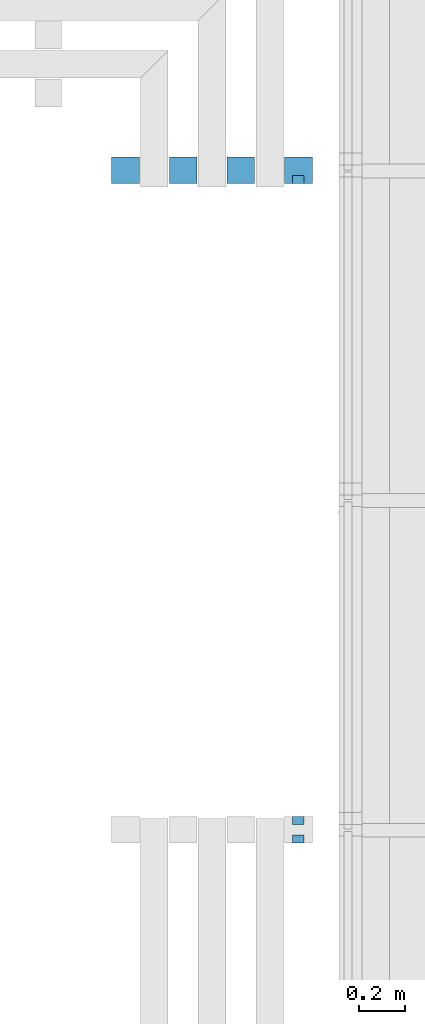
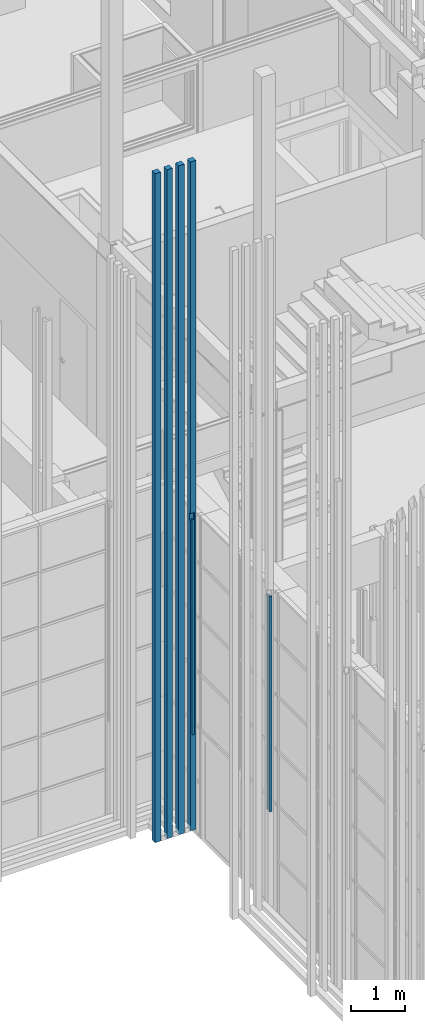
# One storey, part 141 of 260: 4 discrete accessories.
"""IFC2X3 building model written with IfcOpenShell, lengths in millimetres."""

from ifc_helpers import new_model, entity, si_unit, converted_unit, derived_unit, money_unit, direction, frame, origin_with_axes, place, context, subcontext, project, spatial, faceted_brep, material, material_list, type_object, element, save


model = new_model("IFC2X3")

# Units and contexts
model_context = context("Model", 3, precision=0.01, world=origin_with_axes(), true_north=direction((0.0, 1.0)))
body_context = subcontext(model_context, "Body", "Model", "MODEL_VIEW")
ifc_project = project(units=[si_unit("LENGTHUNIT", "METRE", prefix="MILLI"), si_unit("AREAUNIT", "SQUARE_METRE"), si_unit("VOLUMEUNIT", "CUBIC_METRE"), converted_unit("PLANEANGLEUNIT", "DEGREE", entity("IfcPlaneAngleMeasure", 0.0174532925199), si_unit("PLANEANGLEUNIT", "RADIAN"), dimensions=[0, 0, 0, 0, 0, 0, 0]), money_unit("EUR"), converted_unit("TIMEUNIT", "Year", entity("IfcTimeMeasure", 31556926.0), si_unit("TIMEUNIT", "SECOND"), dimensions=[0, 0, 1, 0, 0, 0, 0]), si_unit("MASSUNIT", "GRAM", prefix="KILO"), si_unit("THERMODYNAMICTEMPERATUREUNIT", "DEGREE_CELSIUS"), si_unit("LUMINOUSINTENSITYUNIT", "LUMEN"), si_unit("ENERGYUNIT", "JOULE", prefix="MEGA"), derived_unit("THERMALCONDUCTANCEUNIT", [(si_unit("POWERUNIT", "WATT"), 1), (si_unit("LENGTHUNIT", "METRE"), -1), (si_unit("THERMODYNAMICTEMPERATUREUNIT", "KELVIN"), -1)]), derived_unit("SPECIFICHEATCAPACITYUNIT", [(si_unit("ENERGYUNIT", "JOULE"), 1), (si_unit("MASSUNIT", "GRAM", prefix="KILO"), -1), (si_unit("THERMODYNAMICTEMPERATUREUNIT", "KELVIN"), -1)]), derived_unit("MASSDENSITYUNIT", [(si_unit("MASSUNIT", "GRAM", prefix="KILO"), 1), (si_unit("VOLUMEUNIT", "CUBIC_METRE"), -1)])], contexts=[model_context])

# Site, building, storey
site_placement = place(None, origin_with_axes())
site = spatial("IfcSite", under=ifc_project, at=site_placement, Name="Kolde pst 67a", CompositionType="ELEMENT")
building_placement = place(site_placement, origin_with_axes())
building = spatial("IfcBuilding", under=site, at=building_placement, Name="Riigigümnaasium", CompositionType="ELEMENT")
storey_placement = place(building_placement, origin_with_axes())
storey = spatial("IfcBuildingStorey", under=building, at=storey_placement, Name="1. korrus", CompositionType="ELEMENT", Elevation=0.0)

# Discrete accessories
ifc_material_1 = material(Name="_VÄLISVIIMISTLUS - sõrmjätkatud puitprussid 120x115mm, liitekohad vähemärgatavad, Platowood sõrmjätkatud kuusk või samaväärne; eeltöödeldud tuletõkkevõõbaga, tuletundlikkus B-s1, d0, Woodsafe Exterior WFX™ või samaväärne; kinnitused vastavalt EK osale")
ifc_material_list = material_list([ifc_material_1, ifc_material_1, ifc_material_1, ifc_material_1])
discrete_accessory_type_1 = type_object("IfcDiscreteAccessoryType", Name="120 4-ne vertikaalne 870 x 115")
discrete_accessory_1_placement = place(storey_placement, frame((47687.9900449, 22516.7339336, 280.0), z_axis=(0.0, 0.0, 1.0), x_axis=(-0.999999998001, -6.32316306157e-05, 0.0)))
element("IfcDiscreteAccessory", 1, at=discrete_accessory_1_placement, inside=storey, type_object=discrete_accessory_type_1, material=ifc_material_list, Name="Päikesevarjestus", context=body_context, shape_type="Brep", body=[
    faceted_brep([(97.9977866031, 9.99462538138, 6989.99966445), (47.997786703, 9.99778696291, 6989.99966445), (47.997786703, 9.99778696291, 7139.99966445), (133.0, 9.99241213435, 7139.99966445), (133.0, 9.99241213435, 6989.99966445), (97.9977866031, 9.99462538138, 2150.0), (47.997786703, 9.99778696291, 2150.0), (47.9999998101, 44.9977868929, 6989.99966445), (47.99999995, 45.0, 7139.99966445), (133.0, 45.0, 7139.99966445), (133.0, 45.0, 0.0), (133.0, 45.0, 6989.99966445), (133.0, 45.0, 15050.0), (133.0, -70.0, 15050.0), (133.0, -70.0, 0.0), (97.9999997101, 44.9946253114, 6989.99966445), (97.9999997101, 44.9946253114, 2150.0), (47.9999998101, 44.9977868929, 2150.0), (13.0, 45.0, 0.0), (13.0, 45.0, 15050.0), (13.0, -70.0, 15050.0), (13.0, -70.0, 0.0)], [[[0, 1, 2, 3, 4]], [[1, 0, 5, 6]], [[1, 7, 8, 2]], [[9, 3, 2, 8]], [[10, 11, 4, 3, 9, 12, 13, 14]], [[15, 0, 4, 11]], [[0, 15, 16, 5]], [[16, 17, 6, 5]], [[7, 1, 6, 17]], [[16, 15, 11, 10, 18, 19, 12, 9, 8, 7, 17]], [[12, 19, 20, 13]], [[21, 14, 13, 20]], [[10, 14, 21, 18]], [[18, 21, 20, 19]]]),
    faceted_brep([(383.0, 45.0, 0.0), (263.0, 45.0, 0.0), (263.0, 45.0, 15050.0), (383.0, 45.0, 15050.0), (383.0, -70.0, 0.0), (263.0, -70.0, 0.0), (263.0, -70.0, 15050.0), (383.0, -70.0, 15050.0)], [[[0, 1, 2, 3]], [[0, 4, 5, 1]], [[1, 5, 6, 2]], [[3, 2, 6, 7]], [[4, 0, 3, 7]], [[5, 4, 7, 6]]]),
    faceted_brep([(633.0, 45.0, 0.0), (513.0, 45.0, 0.0), (513.0, 45.0, 15050.0), (633.0, 45.0, 15050.0), (633.0, -70.0, 0.0), (513.0, -70.0, 0.0), (513.0, -70.0, 15050.0), (633.0, -70.0, 15050.0)], [[[0, 1, 2, 3]], [[0, 4, 5, 1]], [[1, 5, 6, 2]], [[3, 2, 6, 7]], [[4, 0, 3, 7]], [[5, 4, 7, 6]]]),
    faceted_brep([(883.0, 45.0, 0.0), (763.0, 45.0, 0.0), (763.0, 45.0, 15050.0), (883.0, 45.0, 15050.0), (883.0, -70.0, 0.0), (763.0, -70.0, 0.0), (763.0, -70.0, 15050.0), (883.0, -70.0, 15050.0)], [[[0, 1, 2, 3]], [[0, 4, 5, 1]], [[1, 5, 6, 2]], [[3, 2, 6, 7]], [[4, 0, 3, 7]], [[5, 4, 7, 6]]]),
])
ifc_material_2 = material(Name="_METALL - teras")
discrete_accessory_type_2 = type_object("IfcDiscreteAccessoryType", Name="_METALL - teras 50 x 35")
discrete_accessory_2_placement = place(storey_placement, frame((47614.9928905, 22489.2331117, 2430.0), z_axis=(0.0, 0.0, 1.0), x_axis=(1.0, 0.0, 0.0)))
element("IfcDiscreteAccessory", 2, at=discrete_accessory_2_placement, inside=storey, type_object=discrete_accessory_type_2, material=ifc_material_2, Name="Varjestuskardina külgsiin RENSON või analoog", context=body_context, shape_type="Brep", body=[
    faceted_brep([(25.0, 17.5, 4839.99966445), (25.0, 17.5, 0.0), (-25.0, 17.5, 0.0), (-25.0, 17.5, 4839.99966445), (25.0, -17.5, 4839.99966445), (25.0, -17.5, 0.0), (-25.0, -17.5, 0.0), (-25.0, -17.5, 4839.99966445)], [[[0, 1, 2, 3]], [[4, 5, 1, 0]], [[2, 1, 5, 6]], [[3, 2, 6, 7]], [[4, 0, 3, 7]], [[7, 6, 5, 4]]]),
])
discrete_accessory_3_placement = place(storey_placement, frame((47614.9928905, 19709.2332373, 2430.0), z_axis=(0.0, 0.0, 1.0), x_axis=(-1.0, 0.0, 0.0)))
element("IfcDiscreteAccessory", 3, at=discrete_accessory_3_placement, inside=storey, type_object=discrete_accessory_type_2, material=ifc_material_2, Name="Varjestuskardina külgsiin RENSON või analoog", context=body_context, shape_type="Brep", body=[
    faceted_brep([(-25.0, -17.5, 4839.99966445), (-25.0, -17.5, 0.0), (25.0, -17.5, 0.0), (25.0, -17.5, 4839.99966445), (-25.0, 17.5, 4839.99966445), (-25.0, 17.5, 0.0), (25.0, 17.5, 0.0), (25.0, 17.5, 4839.99966445)], [[[0, 1, 2, 3]], [[4, 5, 1, 0]], [[2, 1, 5, 6]], [[3, 2, 6, 7]], [[4, 0, 3, 7]], [[7, 6, 5, 4]]]),
])
discrete_accessory_4_placement = place(storey_placement, frame((47614.992864, 19629.3234466, 2430.0), z_axis=(0.0, 0.0, 1.0), x_axis=(1.0, -6.63639163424e-07, 0.0)))
element("IfcDiscreteAccessory", 4, at=discrete_accessory_4_placement, inside=storey, type_object=discrete_accessory_type_2, material=ifc_material_2, Name="Varjestuskardina külgsiin RENSON või analoog", context=body_context, shape_type="Brep", body=[
    faceted_brep([(25.0, 17.5, 4839.99966445), (25.0, 17.5, 0.0), (-25.0, 17.5, 0.0), (-25.0, 17.5, 4839.99966445), (25.0, -17.5, 4839.99966445), (25.0, -17.5, 0.0), (-25.0, -17.5, 0.0), (-25.0, -17.5, 4839.99966445)], [[[0, 1, 2, 3]], [[4, 5, 1, 0]], [[2, 1, 5, 6]], [[3, 2, 6, 7]], [[4, 0, 3, 7]], [[7, 6, 5, 4]]]),
])

save(model, "model.ifc")
